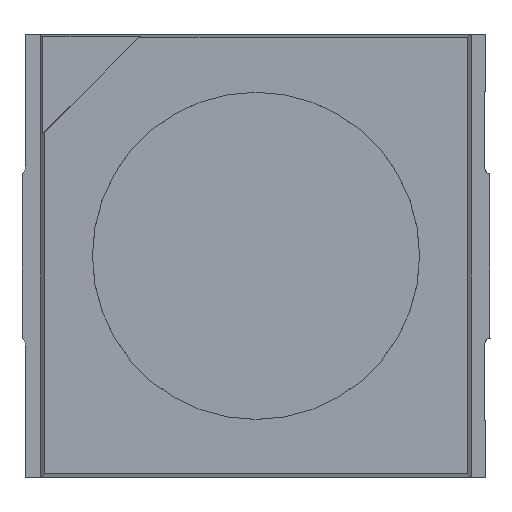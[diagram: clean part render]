
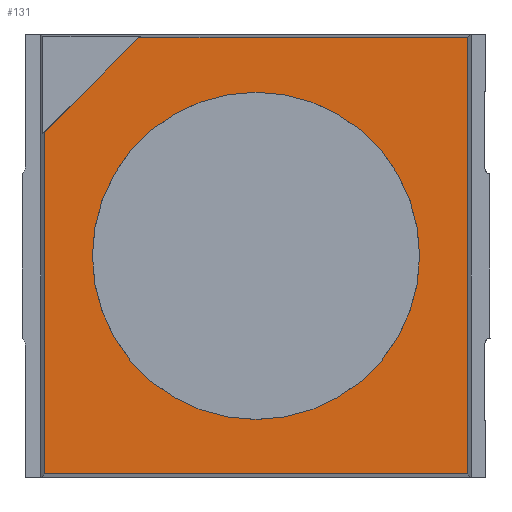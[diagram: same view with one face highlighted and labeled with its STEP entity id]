
A CAD part, top view. The second image highlights one B-rep face of the part: STEP entity #131.
In plain terms, the highlighted planar face has unit normal (0, 0, 1).
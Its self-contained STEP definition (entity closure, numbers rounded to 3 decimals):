
#131=ADVANCED_FACE('',(#249,#250),#251,.T.);
#249=FACE_OUTER_BOUND('',#372,.T.);
#250=FACE_BOUND('',#373,.T.);
#251=PLANE('',#374);
#372=EDGE_LOOP('',(#860,#861,#862,#863,#864));
#373=EDGE_LOOP('',(#865,#866));
#374=AXIS2_PLACEMENT_3D('',#867,#868,#869);
#860=ORIENTED_EDGE('',*,*,#1055,.T.);
#861=ORIENTED_EDGE('',*,*,#1061,.F.);
#862=ORIENTED_EDGE('',*,*,#1062,.F.);
#863=ORIENTED_EDGE('',*,*,#1063,.F.);
#864=ORIENTED_EDGE('',*,*,#1058,.F.);
#865=ORIENTED_EDGE('',*,*,#901,.T.);
#866=ORIENTED_EDGE('',*,*,#1064,.T.);
#867=CARTESIAN_POINT('',(0.,0.,0.0));
#868=DIRECTION('',(0.0,0.0,1.0));
#869=DIRECTION('',(0.,-1.0,0.0));
#901=EDGE_CURVE('',#1070,#1067,#1071,.T.);
#1055=EDGE_CURVE('',#1321,#1325,#1327,.T.);
#1058=EDGE_CURVE('',#1321,#1331,#1332,.T.);
#1061=EDGE_CURVE('',#1335,#1325,#1336,.T.);
#1062=EDGE_CURVE('',#1337,#1335,#1338,.T.);
#1063=EDGE_CURVE('',#1331,#1337,#1339,.T.);
#1064=EDGE_CURVE('',#1067,#1070,#1340,.T.);
#1067=VERTEX_POINT('',#1343);
#1070=VERTEX_POINT('',#1347);
#1071=CIRCLE('',#1348,1.293);
#1321=VERTEX_POINT('',#1722);
#1325=VERTEX_POINT('',#1728);
#1327=LINE('',#1731,#1732);
#1331=VERTEX_POINT('',#1738);
#1332=LINE('',#1739,#1740);
#1335=VERTEX_POINT('',#1745);
#1336=LINE('',#1746,#1747);
#1337=VERTEX_POINT('',#1748);
#1338=LINE('',#1749,#1750);
#1339=LINE('',#1751,#1752);
#1340=CIRCLE('',#1753,1.293);
#1343=CARTESIAN_POINT('',(0.,-1.293,0.0));
#1347=CARTESIAN_POINT('',(0.,1.293,0.));
#1348=AXIS2_PLACEMENT_3D('',#1759,#1760,#1761);
#1722=CARTESIAN_POINT('',(-0.926,1.724,0.));
#1728=CARTESIAN_POINT('',(-1.674,0.976,0.0));
#1731=CARTESIAN_POINT('',(-0.926,1.724,0.));
#1732=VECTOR('',#1967,1.057);
#1738=CARTESIAN_POINT('',(1.674,1.724,0.));
#1739=CARTESIAN_POINT('',(-0.926,1.724,0.));
#1740=VECTOR('',#1970,2.6);
#1745=CARTESIAN_POINT('',(-1.674,-1.724,0.));
#1746=CARTESIAN_POINT('',(-1.674,-1.724,0.));
#1747=VECTOR('',#1973,2.7);
#1748=CARTESIAN_POINT('',(1.674,-1.724,0.));
#1749=CARTESIAN_POINT('',(1.674,-1.724,0.));
#1750=VECTOR('',#1974,3.348);
#1751=CARTESIAN_POINT('',(1.674,1.724,0.));
#1752=VECTOR('',#1975,3.448);
#1753=AXIS2_PLACEMENT_3D('',#1976,#1977,#1978);
#1759=CARTESIAN_POINT('',(0.,0.,0.0));
#1760=DIRECTION('',(0.0,-0.0,-1.0));
#1761=DIRECTION('',(0.,-1.0,0.0));
#1967=DIRECTION('',(-0.707,-0.707,0.));
#1970=DIRECTION('',(1.0,0.,0.0));
#1973=DIRECTION('',(0.,1.0,0.0));
#1974=DIRECTION('',(-1.0,0.,0.0));
#1975=DIRECTION('',(0.,-1.0,0.0));
#1976=CARTESIAN_POINT('',(0.,0.,0.0));
#1977=DIRECTION('',(0.0,-0.0,-1.0));
#1978=DIRECTION('',(0.,-1.0,0.0));
